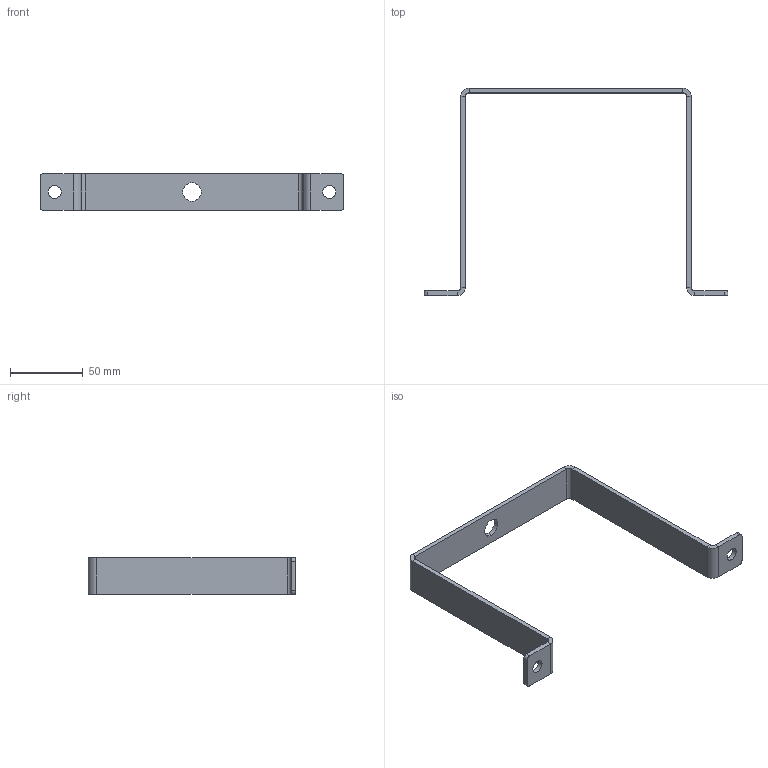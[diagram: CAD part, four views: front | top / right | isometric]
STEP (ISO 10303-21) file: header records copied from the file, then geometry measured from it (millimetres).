
FILE_DESCRIPTION (( 'STEP AP214' ), '1' );
FILE_NAME ('HUL-xx-SP1154 Bracket 1.STEP', '2016-11-22T22:50:38', ( '' ), ( '' ), 'SwSTEP 2.0', 'SolidWorks 2016', '' );
FILE_SCHEMA (( 'AUTOMOTIVE_DESIGN' ));
Length unit declared in the file: inch
Products named in the file (1): HUL-xx-SP1154 Bracket 1
Bounding box: 209.55 x 142.88 x 25.4 mm (x, y, z)
Volume: 38046 mm3; surface area: 27477.3 mm2
Topology: 1 solids, 1 shells, 48 faces, 106 edges, 60 vertices
Faces by surface type: plane 30, cylinder 18
Entity records: 1342 total; most frequent: DIRECTION 240, CARTESIAN_POINT 215, ORIENTED_EDGE 212, EDGE_CURVE 106, AXIS2_PLACEMENT_3D 85, VECTOR 70, LINE 70, VERTEX_POINT 60
